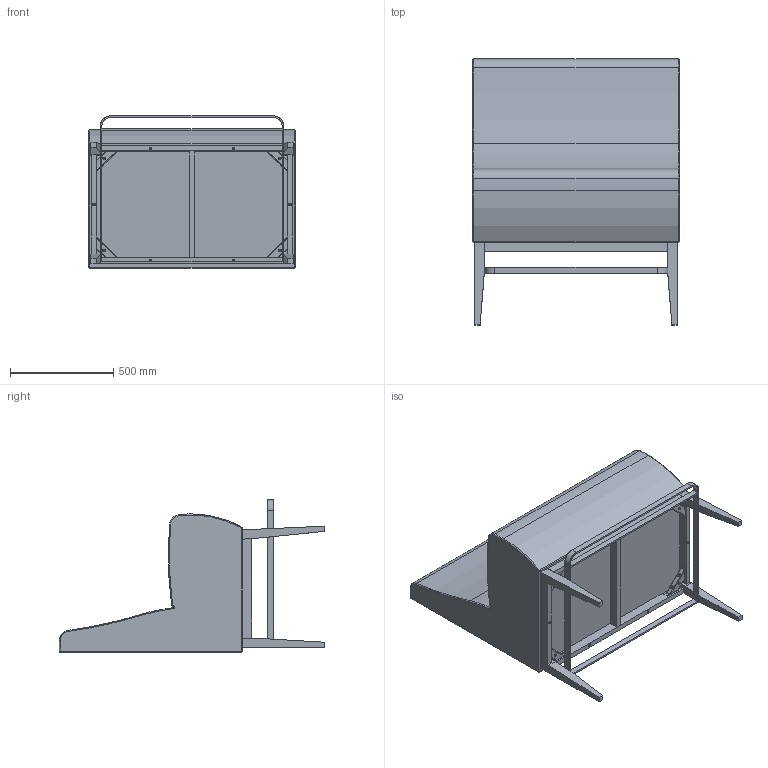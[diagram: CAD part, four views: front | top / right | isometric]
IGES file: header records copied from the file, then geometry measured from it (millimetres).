
Start section: SolidWorks IGES file using analytic representation for surfaces
Global section: file name: C:\Users\emanuel\Documents\TRABALHO\DESENHO TÉCNICO\JMS\BANCOS CORRIDOS\BLUES\Blues100BarB6.IGS; native system: SolidWorks 2017; preprocessor: SolidWorks 2017; author: Emanuel; date: 170601.103708; units: millimetre
Bounding box: 1000 x 1290 x 738 mm (x, y, z)
Surface area: 4729947.1 mm2 (no closed solid volume)
Topology: 0 solids, 0 shells, 773 faces, 8704 edges, 8685 vertices
Faces by surface type: bspline 463, revolution 310
